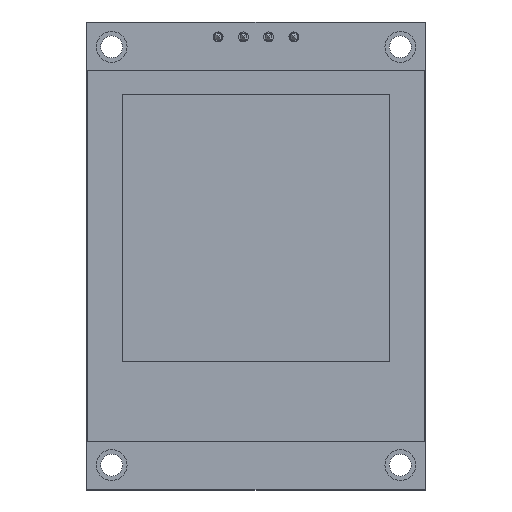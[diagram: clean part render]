
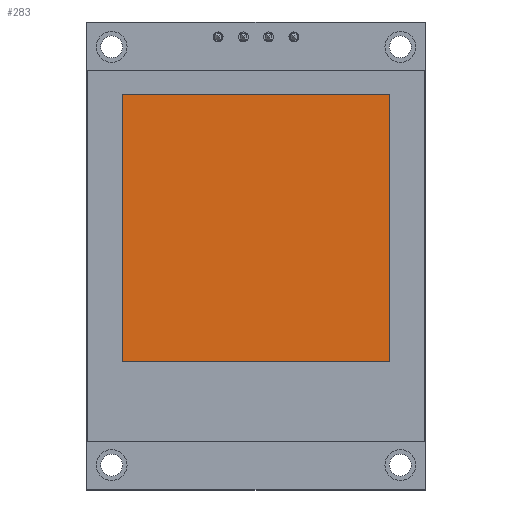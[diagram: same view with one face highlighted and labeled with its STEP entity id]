
A CAD part, top view. The second image highlights one B-rep face of the part: STEP entity #283.
In plain terms, the highlighted planar face has unit normal (0, 0, 1).
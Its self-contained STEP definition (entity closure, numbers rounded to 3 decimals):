
#191 = EDGE_CURVE('',#192,#194,#196,.T.);
#192 = VERTEX_POINT('',#193);
#193 = CARTESIAN_POINT('',(-9.618,-32.605,5.36));
#194 = VERTEX_POINT('',#195);
#195 = CARTESIAN_POINT('',(17.238,-32.605,5.36));
#196 = LINE('',#197,#198);
#197 = CARTESIAN_POINT('',(-9.618,-32.605,5.36));
#198 = VECTOR('',#199,1.);
#199 = DIRECTION('',(1.,0.,0.));
#222 = EDGE_CURVE('',#194,#223,#225,.T.);
#223 = VERTEX_POINT('',#224);
#224 = CARTESIAN_POINT('',(17.238,-5.75,5.36));
#225 = LINE('',#226,#227);
#226 = CARTESIAN_POINT('',(17.238,-32.605,5.36));
#227 = VECTOR('',#228,1.);
#228 = DIRECTION('',(0.,1.,0.));
#246 = EDGE_CURVE('',#247,#223,#249,.T.);
#247 = VERTEX_POINT('',#248);
#248 = CARTESIAN_POINT('',(-9.618,-5.75,5.36));
#249 = LINE('',#250,#251);
#250 = CARTESIAN_POINT('',(-9.618,-5.75,5.36));
#251 = VECTOR('',#252,1.);
#252 = DIRECTION('',(1.,0.,0.));
#270 = EDGE_CURVE('',#192,#247,#271,.T.);
#271 = LINE('',#272,#273);
#272 = CARTESIAN_POINT('',(-9.618,-32.605,5.36));
#273 = VECTOR('',#274,1.);
#274 = DIRECTION('',(0.,1.,0.));
#283 = ADVANCED_FACE('',(#284),#290,.T.);
#284 = FACE_BOUND('',#285,.T.);
#285 = EDGE_LOOP('',(#286,#287,#288,#289));
#286 = ORIENTED_EDGE('',*,*,#270,.F.);
#287 = ORIENTED_EDGE('',*,*,#191,.T.);
#288 = ORIENTED_EDGE('',*,*,#222,.T.);
#289 = ORIENTED_EDGE('',*,*,#246,.F.);
#290 = PLANE('',#291);
#291 = AXIS2_PLACEMENT_3D('',#292,#293,#294);
#292 = CARTESIAN_POINT('',(-9.618,-32.605,5.36));
#293 = DIRECTION('',(0.,0.,1.));
#294 = DIRECTION('',(1.,0.,0.));
